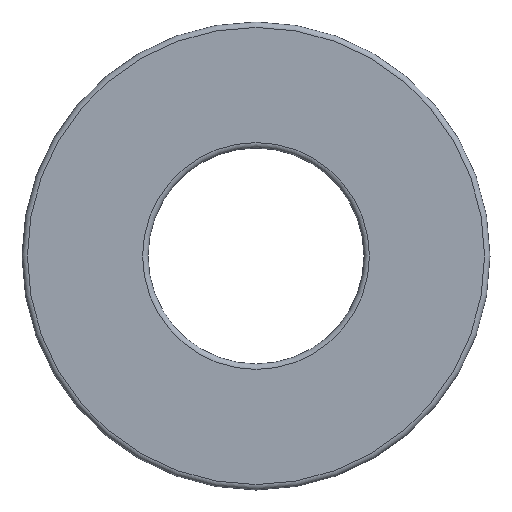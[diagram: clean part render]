
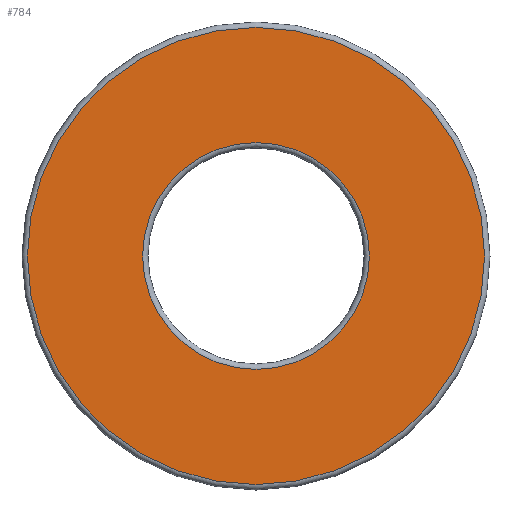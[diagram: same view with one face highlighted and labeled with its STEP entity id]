
A CAD part, left-side view. The second image highlights one B-rep face of the part: STEP entity #784.
In plain terms, the highlighted planar face has unit normal (-1, 0, 0).
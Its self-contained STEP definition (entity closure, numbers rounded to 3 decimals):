
#51=FACE_OUTER_BOUND('',#145,.T.);
#77=PLANE('',#917);
#117=FACE_BOUND('',#146,.T.);
#145=EDGE_LOOP('',(#632));
#146=EDGE_LOOP('',(#633));
#235=CIRCLE('',#913,12.7);
#238=CIRCLE('',#918,6.3);
#362=VERTEX_POINT('',#1453);
#365=VERTEX_POINT('',#1463);
#464=EDGE_CURVE('',#362,#362,#235,.T.);
#468=EDGE_CURVE('',#365,#365,#238,.T.);
#632=ORIENTED_EDGE('',*,*,#464,.F.);
#633=ORIENTED_EDGE('',*,*,#468,.F.);
#784=ADVANCED_FACE('',(#51,#117),#77,.T.);
#913=AXIS2_PLACEMENT_3D('',#1455,#1142,#1143);
#917=AXIS2_PLACEMENT_3D('',#1462,#1151,#1152);
#918=AXIS2_PLACEMENT_3D('',#1464,#1153,#1154);
#1142=DIRECTION('center_axis',(1.,0.,0.));
#1143=DIRECTION('ref_axis',(0.,-1.,0.));
#1151=DIRECTION('center_axis',(-1.,0.,0.));
#1152=DIRECTION('ref_axis',(0.,0.,1.));
#1153=DIRECTION('center_axis',(-1.,0.,0.));
#1154=DIRECTION('ref_axis',(0.,-1.,0.));
#1453=CARTESIAN_POINT('',(0.,0.,12.7));
#1455=CARTESIAN_POINT('Origin',(0.,0.,0.));
#1462=CARTESIAN_POINT('Origin',(0.,9.5,0.));
#1463=CARTESIAN_POINT('',(0.,0.,6.3));
#1464=CARTESIAN_POINT('Origin',(0.,0.,0.));
